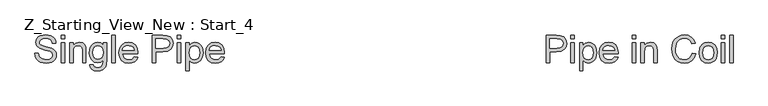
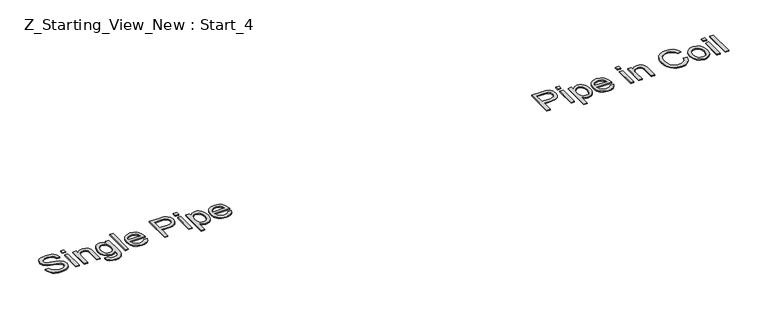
"""IFC4 building model written with IfcOpenShell, lengths in millimetres: pipe fitting geometry, Z_Starting_View_New : Start_4."""

from ifc_helpers import new_model, si_unit, origin, origin_with_axes, place, context, project, spatial, polyline, outline, extrude, source, transform, mapped, element, save


def z_starting_view_new_start_4_66d65c96(model_context):
    return source(origin(), model_context, "Body", "SweptSolid", [
        extrude(outline(polyline([(24922.0402598, 7445.7857303), (24922.0402598, 7596.4701955), (24977.8847467, 7596.4701955), (25000.3991248, 7595.0354557), (25018.7012541, 7587.9905155), (25030.5654484, 7573.4223885), (25035.0536088, 7552.8761791), (25032.0231808, 7535.1166757), (25022.931897, 7520.3186225), (25005.9311503, 7510.3306263), (24979.1723337, 7507.0012943), (24940.875818, 7507.0012943), (24940.875818, 7445.7857303), (24922.0402598, 7445.7857303)]), holes=[polyline([(24940.875818, 7525.8368524), (24980.2759797, 7525.8368524), (24996.9778223, 7527.5658978), (25008.0142821, 7532.7530339), (25014.1671085, 7541.0763641), (25016.2180506, 7552.2139915), (25011.3804024, 7567.8121881), (24998.6700794, 7576.3470504), (24979.8345213, 7577.6346373), (24940.875818, 7577.6346373), (24940.875818, 7525.8368524)])]), origin_with_axes(), (0.0, 0.0, 1.0), 5.0),
        extrude(outline(polyline([(25058.5980564, 7445.7857303), (25058.5980564, 7556.4446344), (25077.4336146, 7556.4446344), (25077.4336146, 7445.7857303), (25058.5980564, 7445.7857303)])), origin_with_axes(), (0.0, 0.0, 1.0), 5.0),
        extrude(outline(polyline([(25058.5980564, 7577.6346373), (25058.5980564, 7596.4701955), (25077.4336146, 7596.4701955), (25077.4336146, 7577.6346373), (25058.5980564, 7577.6346373)])), origin_with_axes(), (0.0, 0.0, 1.0), 5.0),
        extrude(outline(polyline([(25105.6869518, 7403.4057244), (25105.6869518, 7556.4446344), (25124.52251, 7556.4446344), (25124.52251, 7537.9769583), (25137.5455326, 7553.593549), (25155.130292, 7558.7990792), (25167.8682061, 7556.9780633), (25179.0058335, 7551.5150157), (25188.0741247, 7542.7410301), (25194.6040301, 7530.9872003), (25199.8647426, 7501.9613109), (25198.379419, 7485.8526781), (25193.9234484, 7471.4454994), (25186.6393849, 7459.4709405), (25176.6697828, 7450.6601667), (25165.0585073, 7445.2385058), (25152.8494236, 7443.4312855), (25136.4602807, 7448.2689337), (25124.52251, 7460.5010101), (25124.52251, 7403.4057244), (25105.6869518, 7403.4057244)]), holes=[polyline([(25124.52251, 7500.2322656), (25126.5596565, 7483.346482), (25132.6710962, 7471.5374699), (25141.6888036, 7464.5845002), (25152.4447534, 7462.2668436), (25163.3754472, 7464.6672737), (25172.6230809, 7471.8685637), (25178.9276585, 7484.1098371), (25181.0291844, 7501.6302171), (25178.9782423, 7518.4240302), (25172.825416, 7530.3985892), (25163.8215041, 7537.5722881), (25153.2173056, 7539.963521), (25142.5717204, 7537.4205367), (25133.2229192, 7529.7915839), (25126.6976123, 7517.3157857), (25124.52251, 7500.2322656)])]), origin_with_axes(), (0.0, 0.0, 1.0), 5.0),
        extrude(outline(polyline([(25298.5306937, 7478.747957), (25316.9983699, 7476.3935123), (25310.3443043, 7462.4783758), (25299.7263102, 7452.0765124), (25285.3835109, 7445.5925922), (25267.5550297, 7443.4312855), (25245.4545188, 7447.1606892), (25228.4491736, 7458.3489004), (25217.6058518, 7476.2693521), (25213.9914112, 7500.1954774), (25217.64264, 7524.9263445), (25228.5963264, 7543.4216118), (25245.3717454, 7554.9547123), (25266.4881719, 7558.7990792), (25286.9470094, 7554.9639094), (25303.2947655, 7543.4584), (25314.0139272, 7524.9999209), (25317.5869811, 7500.305842), (25317.4766165, 7495.2290704), (25232.8269694, 7495.2290704), (25236.0873235, 7481.129993), (25243.6610941, 7470.7649177), (25254.5917879, 7464.3913622), (25267.9229117, 7462.2668436), (25286.3905879, 7466.203181), (25298.5306937, 7478.747957)]), holes=[polyline([(25232.8269694, 7514.0646286), (25298.7514229, 7514.0646286), (25296.2038401, 7524.0158365), (25291.209842, 7531.1343531), (25280.2285644, 7537.7562291), (25266.4145955, 7539.963521), (25253.7180682, 7538.202286), (25243.2196357, 7532.9185808), (25235.9217766, 7524.6826227), (25232.8269694, 7514.0646286)])]), origin_with_axes(), (0.0, 0.0, 1.0), 5.0),
        extrude(outline(polyline([(25395.2836584, 7445.7857303), (25395.2836584, 7556.4446344), (25414.1192166, 7556.4446344), (25414.1192166, 7445.7857303), (25395.2836584, 7445.7857303)])), origin_with_axes(), (0.0, 0.0, 1.0), 5.0),
        extrude(outline(polyline([(25395.2836584, 7577.6346373), (25395.2836584, 7596.4701955), (25414.1192166, 7596.4701955), (25414.1192166, 7577.6346373), (25395.2836584, 7577.6346373)])), origin_with_axes(), (0.0, 0.0, 1.0), 5.0),
        extrude(outline(polyline([(25442.3725538, 7445.7857303), (25442.3725538, 7556.4446344), (25461.208112, 7556.4446344), (25461.208112, 7540.9935906), (25475.6106921, 7554.347707), (25495.2739847, 7558.7990792), (25513.0610792, 7555.2122297), (25525.201185, 7545.7944507), (25530.8481737, 7531.9436935), (25531.841455, 7513.7335348), (25531.841455, 7445.7857303), (25513.0058969, 7445.7857303), (25513.0058969, 7511.195149), (25510.8353931, 7527.8602034), (25503.1650535, 7536.6709772), (25490.2340014, 7539.963521), (25479.2021401, 7538.114914), (25469.7981566, 7532.5690929), (25463.3556231, 7521.8545298), (25461.208112, 7504.4996967), (25461.208112, 7445.7857303), (25442.3725538, 7445.7857303)])), origin_with_axes(), (0.0, 0.0, 1.0), 5.0),
        extrude(outline(polyline([(25724.9059261, 7499.3493488), (25743.7414843, 7494.4933064), (25735.0502721, 7472.5445469), (25721.4110472, 7456.5094904), (25703.495194, 7446.7008367), (25681.9740973, 7443.4312855), (25660.1265053, 7445.9052919), (25642.7762707, 7453.3273112), (25629.4773366, 7465.4398259), (25619.783646, 7481.9853186), (25613.8653444, 7501.4370791), (25611.8925772, 7522.2683971), (25614.1228618, 7544.2401492), (25620.8137156, 7563.2136631), (25631.6156507, 7578.586532), (25646.1791791, 7589.7563491), (25663.4512388, 7596.5575675), (25682.3787675, 7598.8246403), (25703.030743, 7595.8907813), (25720.1050661, 7587.0892046), (25733.0683079, 7572.962536), (25741.3870395, 7554.0534014), (25722.5514813, 7549.5652411), (25716.0215759, 7563.3010351), (25707.1004375, 7572.7234127), (25695.6777016, 7578.1726648), (25681.6430035, 7579.9890821), (25665.4653927, 7577.9749282), (25652.1756557, 7571.9324664), (25642.0910905, 7562.4962932), (25635.5289954, 7550.3010051), (25630.7281353, 7522.3051853), (25632.1490796, 7504.9043669), (25636.4119122, 7489.8579933), (25643.6775816, 7477.7408801), (25654.1070361, 7469.1278429), (25666.6104255, 7463.9820935), (25680.0978991, 7462.2668436), (25695.8202559, 7464.6028943), (25708.9214534, 7471.6110463), (25718.8128806, 7483.2177233), (25724.9059261, 7499.3493488)])), origin_with_axes(), (0.0, 0.0, 1.0), 5.0),
        extrude(outline(polyline([(25762.5770424, 7501.1151823), (25766.6513355, 7527.795824), (25778.8742148, 7546.5486087), (25793.9757707, 7555.7364616), (25812.0571708, 7558.7990792), (25831.8446236, 7555.0696755), (25847.6497538, 7543.8814643), (25858.0102305, 7526.1173624), (25861.4637227, 7502.6602867), (25859.9370124, 7483.6315905), (25855.3568816, 7469.146237), (25847.8566874, 7458.2983166), (25837.5697871, 7450.1819201), (25825.3515064, 7445.1189441), (25812.0571708, 7443.4312855), (25792.0305947, 7447.1468936), (25776.2438585, 7458.2937181), (25765.9937464, 7476.4303005), (25762.5770424, 7501.1151823)]), holes=[polyline([(25781.4126006, 7501.1519705), (25783.5923014, 7484.1052386), (25790.1314039, 7471.9605342), (25799.9722472, 7464.6902663), (25812.0571708, 7462.2668436), (25824.086912, 7464.7040619), (25833.9093613, 7472.0157165), (25840.4484637, 7484.3213693), (25842.6281646, 7501.7405817), (25840.4346682, 7518.290673), (25833.854179, 7530.2698305), (25824.0179341, 7537.5400984), (25812.0571708, 7539.963521), (25799.9722472, 7537.5492954), (25790.1314039, 7530.3066187), (25783.5923014, 7518.1895054), (25781.4126006, 7501.1519705)])]), origin_with_axes(), (0.0, 0.0, 1.0), 5.0),
        extrude(outline(polyline([(25882.6537256, 7445.7857303), (25882.6537256, 7556.4446344), (25901.4892838, 7556.4446344), (25901.4892838, 7445.7857303), (25882.6537256, 7445.7857303)])), origin_with_axes(), (0.0, 0.0, 1.0), 5.0),
        extrude(outline(polyline([(25882.6537256, 7577.6346373), (25882.6537256, 7596.4701955), (25901.4892838, 7596.4701955), (25901.4892838, 7577.6346373), (25882.6537256, 7577.6346373)])), origin_with_axes(), (0.0, 0.0, 1.0), 5.0),
        extrude(outline(polyline([(25929.742621, 7445.7857303), (25929.742621, 7596.4701955), (25948.5781792, 7596.4701955), (25948.5781792, 7445.7857303), (25929.742621, 7445.7857303)])), origin_with_axes(), (0.0, 0.0, 1.0), 5.0),
        extrude(outline(polyline([(22116.1541479, 7497.5835152), (22134.9897061, 7497.5835152), (22141.059759, 7478.7295629), (22155.8854034, 7466.8101863), (22178.4733579, 7462.2668436), (22198.1550446, 7465.7065403), (22210.8653676, 7475.1611076), (22215.0408282, 7487.7978541), (22211.9138313, 7499.5516839), (22199.1115378, 7508.1049402), (22171.6859351, 7515.2970333), (22142.163405, 7524.5860536), (22126.1421441, 7538.6023576), (22120.8630375, 7557.3275512), (22122.4955138, 7568.3594125), (22127.3929429, 7578.6463128), (22135.4265659, 7587.3651161), (22146.4676243, 7593.6926864), (22174.3898678, 7598.8246403), (22204.1883094, 7593.4535631), (22215.6110453, 7586.8224902), (22224.0539371, 7577.6714255), (22229.3974231, 7566.5705863), (22231.5219416, 7554.0901896), (22212.6863835, 7554.0901896), (22209.2282927, 7565.3289846), (22202.0178056, 7573.4407826), (22190.7514195, 7578.3520072), (22175.1256317, 7579.9890821), (22159.131962, 7578.3704013), (22148.1598815, 7573.514359), (22141.8139171, 7566.3682512), (22139.6985956, 7557.8793742), (22141.1977147, 7550.6412959), (22145.6950721, 7544.8195634), (22176.4500069, 7534.2981383), (22209.7801157, 7524.843571), (22220.5176714, 7518.010163), (22228.0086685, 7509.5764682), (22232.4094569, 7499.6344573), (22233.8763864, 7488.2761007), (22232.1887277, 7476.6648252), (22227.1257518, 7465.7433285), (22218.8943921, 7456.3439435), (22207.7015824, 7449.2990033), (22194.2416999, 7444.898215), (22179.2091219, 7443.4312855), (22160.7552413, 7445.0131781), (22145.5663134, 7449.7588558), (22133.4675943, 7457.6867128), (22124.28434, 7468.8151432), (22118.389031, 7482.3715947), (22116.1541479, 7497.5835152)])), origin_with_axes(), (0.0, 0.0, 1.0), 5.0),
        extrude(outline(polyline([(22259.7752788, 7445.7857303), (22259.7752788, 7556.4446344), (22278.610837, 7556.4446344), (22278.610837, 7445.7857303), (22259.7752788, 7445.7857303)])), origin_with_axes(), (0.0, 0.0, 1.0), 5.0),
        extrude(outline(polyline([(22259.7752788, 7577.6346373), (22259.7752788, 7596.4701955), (22278.610837, 7596.4701955), (22278.610837, 7577.6346373), (22259.7752788, 7577.6346373)])), origin_with_axes(), (0.0, 0.0, 1.0), 5.0),
        extrude(outline(polyline([(22306.8641742, 7445.7857303), (22306.8641742, 7556.4446344), (22325.6997324, 7556.4446344), (22325.6997324, 7540.9935906), (22340.1023125, 7554.347707), (22359.7656051, 7558.7990792), (22377.5526996, 7555.2122297), (22389.6928054, 7545.7944507), (22395.3397941, 7531.9436935), (22396.3330754, 7513.7335348), (22396.3330754, 7445.7857303), (22377.4975173, 7445.7857303), (22377.4975173, 7511.195149), (22375.3270135, 7527.8602034), (22367.6566739, 7536.6709772), (22354.7256218, 7539.963521), (22343.6937605, 7538.114914), (22334.289777, 7532.5690929), (22327.8472435, 7521.8545298), (22325.6997324, 7504.4996967), (22325.6997324, 7445.7857303), (22306.8641742, 7445.7857303)])), origin_with_axes(), (0.0, 0.0, 1.0), 5.0),
        extrude(outline(polyline([(22417.5230784, 7436.3679512), (22436.3586365, 7434.0135064), (22442.4654776, 7424.0806926), (22460.7492128, 7419.8868378), (22480.0262293, 7424.6325155), (22489.2232792, 7437.9498438), (22490.5108662, 7459.9123989), (22477.2487203, 7449.3173974), (22461.0803066, 7445.7857303), (22441.6607358, 7449.8968116), (22427.1799807, 7462.2300555), (22418.1714704, 7480.3114555), (22415.1686336, 7501.6670053), (22420.5581048, 7530.8584417), (22427.1523896, 7542.7088404), (22436.1563014, 7551.5150157), (22447.2617391, 7556.9780633), (22460.1606016, 7558.7990792), (22476.9636117, 7554.6788008), (22490.5108662, 7542.3179658), (22490.5108662, 7556.4446344), (22509.3464244, 7556.4446344), (22509.3464244, 7460.9056803), (22508.0588374, 7438.8465561), (22504.1960764, 7424.3198158), (22497.5420108, 7414.6859061), (22487.8805099, 7407.3052736), (22475.4231059, 7402.6147781), (22460.3813308, 7401.0512797), (22442.8563523, 7403.2539731), (22429.0561789, 7409.8620534), (22420.2040184, 7420.8939148), (22417.5230784, 7436.3679512)]), holes=[polyline([(22434.0041917, 7502.9545923), (22436.0137471, 7485.6779341), (22442.0424133, 7473.7999442), (22451.106106, 7466.9159524), (22462.2207408, 7464.6212884), (22473.2526021, 7466.9021568), (22482.36228, 7473.7447619), (22488.4737197, 7485.4710005), (22490.5108662, 7502.4027693), (22488.4139388, 7518.7321314), (22482.1231567, 7530.4905597), (22472.8801216, 7537.5952807), (22461.9264352, 7539.963521), (22451.1704853, 7537.6320689), (22442.1527779, 7530.6377125), (22436.0413383, 7519.0540281), (22434.0041917, 7502.9545923)])]), origin_with_axes(), (0.0, 0.0, 1.0), 5.0),
        extrude(outline(polyline([(22537.5997616, 7445.7857303), (22537.5997616, 7596.4701955), (22556.4353197, 7596.4701955), (22556.4353197, 7445.7857303), (22537.5997616, 7445.7857303)])), origin_with_axes(), (0.0, 0.0, 1.0), 5.0),
        extrude(outline(polyline([(22662.1646052, 7478.747957), (22680.6322813, 7476.3935123), (22673.9782157, 7462.4783758), (22663.3602216, 7452.0765124), (22649.0174224, 7445.5925922), (22631.1889412, 7443.4312855), (22609.0884303, 7447.1606892), (22592.0830851, 7458.3489004), (22581.2397633, 7476.2693521), (22577.6253227, 7500.1954774), (22581.2765515, 7524.9263445), (22592.2302379, 7543.4216118), (22609.0056569, 7554.9547123), (22630.1220834, 7558.7990792), (22650.5809208, 7554.9639094), (22666.928677, 7543.4584), (22677.6478386, 7524.9999209), (22681.2208925, 7500.305842), (22681.1105279, 7495.2290704), (22596.4608808, 7495.2290704), (22599.721235, 7481.129993), (22607.2950056, 7470.7649177), (22618.2256994, 7464.3913622), (22631.5568232, 7462.2668436), (22650.0244993, 7466.203181), (22662.1646052, 7478.747957)]), holes=[polyline([(22596.4608808, 7514.0646286), (22662.3853344, 7514.0646286), (22659.8377515, 7524.0158365), (22654.8437535, 7531.1343531), (22643.8624759, 7537.7562291), (22630.048507, 7539.963521), (22617.3519796, 7538.202286), (22606.8535472, 7532.9185808), (22599.5556881, 7524.6826227), (22596.4608808, 7514.0646286)])]), origin_with_axes(), (0.0, 0.0, 1.0), 5.0),
        extrude(outline(polyline([(22761.2720147, 7445.7857303), (22761.2720147, 7596.4701955), (22817.1165015, 7596.4701955), (22839.6308796, 7595.0354557), (22857.9330089, 7587.9905155), (22869.7972032, 7573.4223885), (22874.2853636, 7552.8761791), (22871.2549356, 7535.1166757), (22862.1636518, 7520.3186225), (22845.1629051, 7510.3306263), (22818.4040885, 7507.0012943), (22780.1075728, 7507.0012943), (22780.1075728, 7445.7857303), (22761.2720147, 7445.7857303)]), holes=[polyline([(22780.1075728, 7525.8368524), (22819.5077345, 7525.8368524), (22836.2095771, 7527.5658978), (22847.2460369, 7532.7530339), (22853.3988633, 7541.0763641), (22855.4498054, 7552.2139915), (22850.6121572, 7567.8121881), (22837.9018343, 7576.3470504), (22819.0662761, 7577.6346373), (22780.1075728, 7577.6346373), (22780.1075728, 7525.8368524)])]), origin_with_axes(), (0.0, 0.0, 1.0), 5.0),
        extrude(outline(polyline([(22897.8298113, 7577.6346373), (22897.8298113, 7596.4701955), (22916.6653694, 7596.4701955), (22916.6653694, 7577.6346373), (22897.8298113, 7577.6346373)])), origin_with_axes(), (0.0, 0.0, 1.0), 5.0),
        extrude(outline(polyline([(22897.8298113, 7445.7857303), (22897.8298113, 7556.4446344), (22916.6653694, 7556.4446344), (22916.6653694, 7445.7857303), (22897.8298113, 7445.7857303)])), origin_with_axes(), (0.0, 0.0, 1.0), 5.0),
        extrude(outline(polyline([(22944.9187066, 7403.4057244), (22944.9187066, 7556.4446344), (22963.7542648, 7556.4446344), (22963.7542648, 7537.9769583), (22976.7772874, 7553.593549), (22994.3620468, 7558.7990792), (23007.0999609, 7556.9780633), (23018.2375883, 7551.5150157), (23027.3058795, 7542.7410301), (23033.8357849, 7530.9872003), (23039.0964974, 7501.9613109), (23037.6111739, 7485.8526781), (23033.1552032, 7471.4454994), (23025.8711397, 7459.4709405), (23015.9015376, 7450.6601667), (23004.2902621, 7445.2385058), (22992.0811784, 7443.4312855), (22975.6920355, 7448.2689337), (22963.7542648, 7460.5010101), (22963.7542648, 7403.4057244), (22944.9187066, 7403.4057244)]), holes=[polyline([(22963.7542648, 7500.2322656), (22965.7914114, 7483.346482), (22971.902851, 7471.5374699), (22980.9205584, 7464.5845002), (22991.6765082, 7462.2668436), (23002.607202, 7464.6672737), (23011.8548357, 7471.8685637), (23018.1594134, 7484.1098371), (23020.2609393, 7501.6302171), (23018.2099971, 7518.4240302), (23012.0571708, 7530.3985892), (23003.0532589, 7537.5722881), (22992.4490604, 7539.963521), (22981.8034752, 7537.4205367), (22972.454674, 7529.7915839), (22965.9293671, 7517.3157857), (22963.7542648, 7500.2322656)])]), origin_with_axes(), (0.0, 0.0, 1.0), 5.0),
        extrude(outline(polyline([(23137.7624485, 7478.747957), (23156.2301247, 7476.3935123), (23149.5760591, 7462.4783758), (23138.958065, 7452.0765124), (23124.6152657, 7445.5925922), (23106.7867845, 7443.4312855), (23084.6862737, 7447.1606892), (23067.6809284, 7458.3489004), (23056.8376066, 7476.2693521), (23053.223166, 7500.1954774), (23056.8743948, 7524.9263445), (23067.8280812, 7543.4216118), (23084.6035002, 7554.9547123), (23105.7199267, 7558.7990792), (23126.1787642, 7554.9639094), (23142.5265204, 7543.4584), (23153.245682, 7524.9999209), (23156.8187359, 7500.305842), (23156.7083713, 7495.2290704), (23072.0587242, 7495.2290704), (23075.3190784, 7481.129993), (23082.8928489, 7470.7649177), (23093.8235427, 7464.3913622), (23107.1546665, 7462.2668436), (23125.6223427, 7466.203181), (23137.7624485, 7478.747957)]), holes=[polyline([(23072.0587242, 7514.0646286), (23137.9831777, 7514.0646286), (23135.4355949, 7524.0158365), (23130.4415968, 7531.1343531), (23119.4603193, 7537.7562291), (23105.6463503, 7539.963521), (23092.949823, 7538.202286), (23082.4513905, 7532.9185808), (23075.1535315, 7524.6826227), (23072.0587242, 7514.0646286)])]), origin_with_axes(), (0.0, 0.0, 1.0), 5.0),
    ])


if __name__ == "__main__":
    model = new_model("IFC4")
    model_context = context("Model", 3, world=origin())
    ifc_project = project(units=[si_unit("LENGTHUNIT", "METRE", prefix="MILLI")], contexts=[model_context])
    site = spatial("IfcSite", under=ifc_project)
    building = spatial("IfcBuilding", under=site)
    placement = place(None, origin())
    z_starting_view_new_start_4_shape = z_starting_view_new_start_4_66d65c96(model_context)
    element("IfcPipeFitting", 1, ObjectType="Z_Starting_View_New : Start_4", at=placement, inside=building, context=model_context, shape_type="MappedRepresentation", body=[
        mapped(z_starting_view_new_start_4_shape, transform((0.0, 0.0, 0.0), x_axis=(1.0, 0.0, 0.0), y_axis=(0.0, 1.0, 0.0), z_axis=(0.0, 0.0, 1.0))),
    ])
    save(model, "model.ifc")
